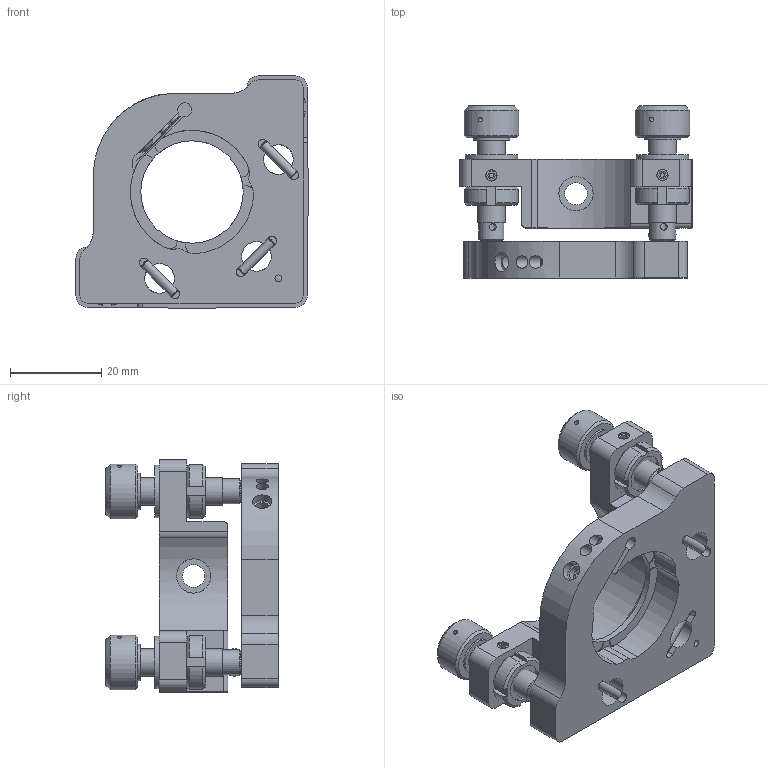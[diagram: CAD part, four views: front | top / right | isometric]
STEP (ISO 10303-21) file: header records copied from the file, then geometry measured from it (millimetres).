
FILE_DESCRIPTION(/* description */ (''),/* implementation_level */ '2;1');
FILE_NAME(/* name */ 'VMHG-254-NM_STP.stp',/* time_stamp */ '2025-05-13T13:14:38+09:00',/* author */ ('e.nonaka'),/* organization */ (''),/* preprocessor_version */ 'ST-DEVELOPER v19.2',/* originating_system */ 'Autodesk Inventor 2023',/* authorisation */ '');
FILE_SCHEMA (('AUTOMOTIVE_DESIGN { 1 0 10303 214 3 1 1 }'));
Length unit declared in the file: millimetre
Products named in the file (4): VG254NM-M02-25001-TS01; VG254NM-M02-25001-S02; VG254NM-M02-25001-S01; VG254NM-M02-25001-S03
Assembly tree (4 placements, depth 2):
  VG254NM-M02-25001-TS01
    VG254NM-M02-25001-S02
    VG254NM-M02-25001-S01
    VG254NM-M02-25001-S03  x2
Bounding box: 50.8 x 37.7 x 50.8 mm (x, y, z)
Volume: 25731.8 mm3; surface area: 15830.3 mm2
Topology: 13 solids, 13 shells, 446 faces, 1198 edges, 789 vertices
Faces by surface type: plane 226, cylinder 142, cone 71, sphere 7
Full cylindrical faces by diameter (mm): 1 x8, 1.5 x4, 2 x8, 2.459 x4, 2.5 x2, 2.6 x4, 2.7 x2, 3.3 x1, 3.5 x2, 4 x1, 4.2 x1, 4.917 x2, 5.459 x2, 5.5 x2, 6 x2, 6.5 x6, 7 x1, 7.5 x2, 8 x2, 8.459 x2, 8.5 x2, 9.25 x2, 9.5 x4, 10.3 x2, 11.5 x2, 12 x2, 22.4 x1
Entity records: 14068 total; most frequent: CARTESIAN_POINT 2749, DIRECTION 2322, ORIENTED_EDGE 2228, EDGE_CURVE 1114, AXIS2_PLACEMENT_3D 855, VERTEX_POINT 748, LINE 612, VECTOR 612
